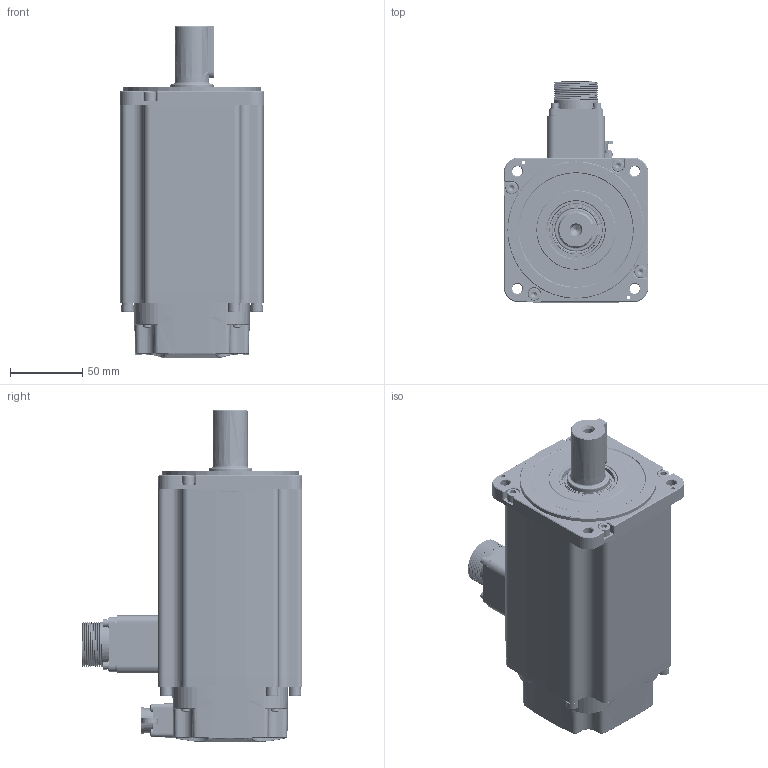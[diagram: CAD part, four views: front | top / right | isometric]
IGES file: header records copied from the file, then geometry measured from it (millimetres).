
Start section: SolidWorks IGES file using analytic representation for surfaces
Global section: file name: Z:\Products\Servo\08.2024\UNITRONICS\B5\UMM-0020CA_EA-B5.IGS; native system: SolidWorks 2022; preprocessor: SolidWorks 2022; author: OfirZ; date: 240820.113248; units: millimetre
Bounding box: 100 x 153.05 x 230 mm (x, y, z)
Surface area: 239014.1 mm2 (no closed solid volume)
Topology: 0 solids, 0 shells, 2187 faces, 30324 edges, 30248 vertices
Faces by surface type: bspline 1113, revolution 1074
